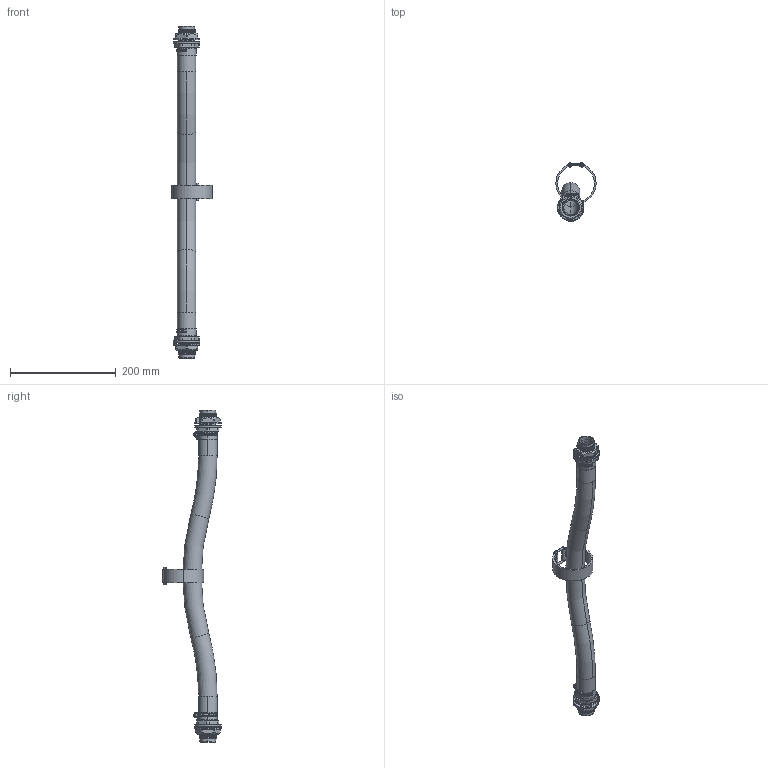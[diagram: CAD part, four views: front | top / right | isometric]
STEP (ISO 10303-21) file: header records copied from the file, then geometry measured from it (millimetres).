
FILE_DESCRIPTION (( 'STEP AP214' ), '1' );
FILE_NAME ('PUB-BR-101639.STEP', '2024-02-02T21:20:46', ( '' ), ( '' ), 'SwSTEP 2.0', 'SolidWorks 2024', '' );
FILE_SCHEMA (( 'AUTOMOTIVE_DESIGN' ));
Length unit declared in the file: millimetre
Products named in the file (7): PUB-BR-101639; MISC-VELCRO-STRAP-12X1_Widest; BB120-CROSSTUBE-TUBE_As-Installed; BB120-CROSSTUBE-C-NUT; BB120-CROSSTUBE-BARB; HOSECLAMP-23-35-SS304_Widest; ORING-BUNA-70A_2.5x33-515
Assembly tree (10 placements, depth 2):
  PUB-BR-101639
    BB120-CROSSTUBE-BARB  x2
    BB120-CROSSTUBE-C-NUT  x2
    BB120-CROSSTUBE-TUBE_As-Installed
    HOSECLAMP-23-35-SS304_Widest  x2
    ORING-BUNA-70A_2.5x33-515  x2
    MISC-VELCRO-STRAP-12X1_Widest
Bounding box: 76.2 x 110.05 x 628 mm (x, y, z)
Volume: 265296.1 mm3; surface area: 181805.9 mm2
Topology: 17 solids, 17 shells, 4897 faces, 10795 edges, 6088 vertices
Faces by surface type: cylinder 1547, torus 1472, bspline 684, plane 612, sphere 458, cone 124
Entity records: 101542 total; most frequent: CARTESIAN_POINT 48012, DIRECTION 12025, ORIENTED_EDGE 10932, EDGE_CURVE 5466, AXIS2_PLACEMENT_3D 5392, CIRCLE 3243, VERTEX_POINT 3086, EDGE_LOOP 2570
